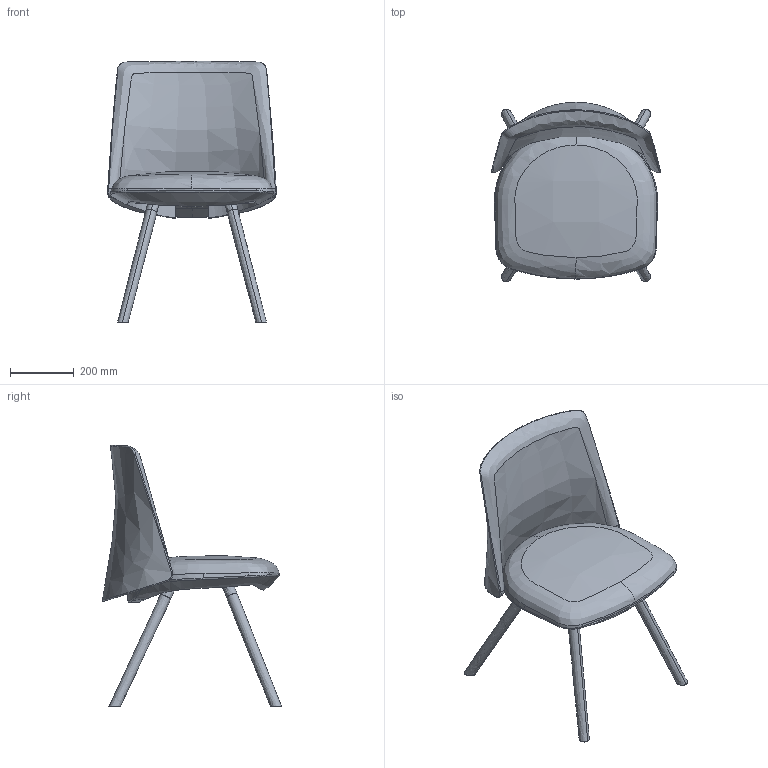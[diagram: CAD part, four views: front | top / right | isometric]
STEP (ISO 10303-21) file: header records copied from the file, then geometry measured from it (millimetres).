
FILE_DESCRIPTION(/* description */ (''),/* implementation_level */ '2;1');
FILE_NAME(/* name */ 'MED229~1',/* time_stamp */ '2016-11-30T15:49:54+01:00',/* author */ (''),/* organization */ (''),/* preprocessor_version */ 'ST-DEVELOPER v15',/* originating_system */ '',/* authorisation */ '');
FILE_SCHEMA (('CONFIG_CONTROL_DESIGN'));
Length unit declared in the file: millimetre
Products named in the file (1): Document
Bounding box: 530.87 x 564.62 x 823.29 mm (x, y, z)
Volume: 26895887.9 mm3; surface area: 1603786.1 mm2
Topology: 3 solids, 14 shells, 99 faces, 262 edges, 179 vertices
Faces by surface type: bspline 68, plane 31
Entity records: 8725 total; most frequent: CARTESIAN_POINT 7117, ORIENTED_EDGE 462, EDGE_CURVE 259, VERTEX_POINT 173, B_SPLINE_CURVE_WITH_KNOTS 168, ADVANCED_FACE 99, FACE_OUTER_BOUND 99, EDGE_LOOP 99
